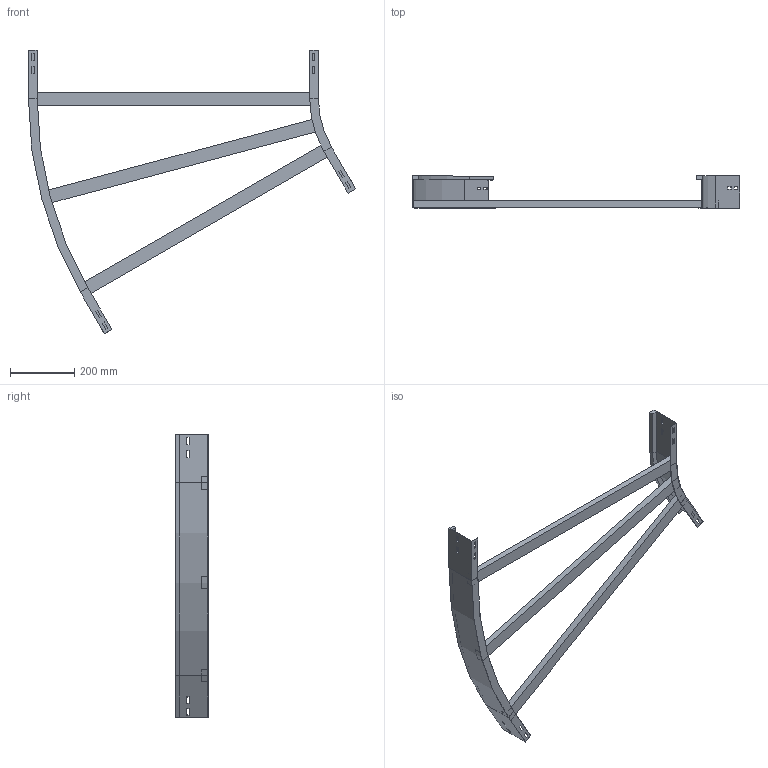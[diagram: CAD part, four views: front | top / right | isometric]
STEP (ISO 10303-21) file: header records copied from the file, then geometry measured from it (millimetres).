
FILE_DESCRIPTION (( 'STEP AP214' ), '1' );
FILE_NAME ('A2_12B3D900.step', '2025-02-21T15:07:32', ( '' ), ( '' ), 'SwSTEP 2.0', 'SolidWorks 2023', '' );
FILE_SCHEMA (( 'AUTOMOTIVE_DESIGN' ));
Length unit declared in the file: millimetre
Products named in the file (4): TRAVERSINO_900; A2_LONGH.INTERNO 30°_H100_R300; A2_LONGH.ESTERNO 30°_H100_R300+900; A2_12B3D900
Assembly tree (5 placements, depth 2):
  A2_12B3D900
    A2_LONGH.INTERNO 30°_H100_R300
    A2_LONGH.ESTERNO 30°_H100_R300+900
    TRAVERSINO_900  x3
Bounding box: 1015.19 x 100 x 879.9 mm (x, y, z)
Volume: 2784698 mm3; surface area: 725027.9 mm2
Topology: 5 solids, 5 shells, 134 faces, 340 edges, 216 vertices
Faces by surface type: plane 126, cylinder 8
Entity records: 3821 total; most frequent: CARTESIAN_POINT 646, ORIENTED_EDGE 632, DIRECTION 592, EDGE_CURVE 316, VECTOR 300, LINE 300, VERTEX_POINT 200, EDGE_LOOP 154
